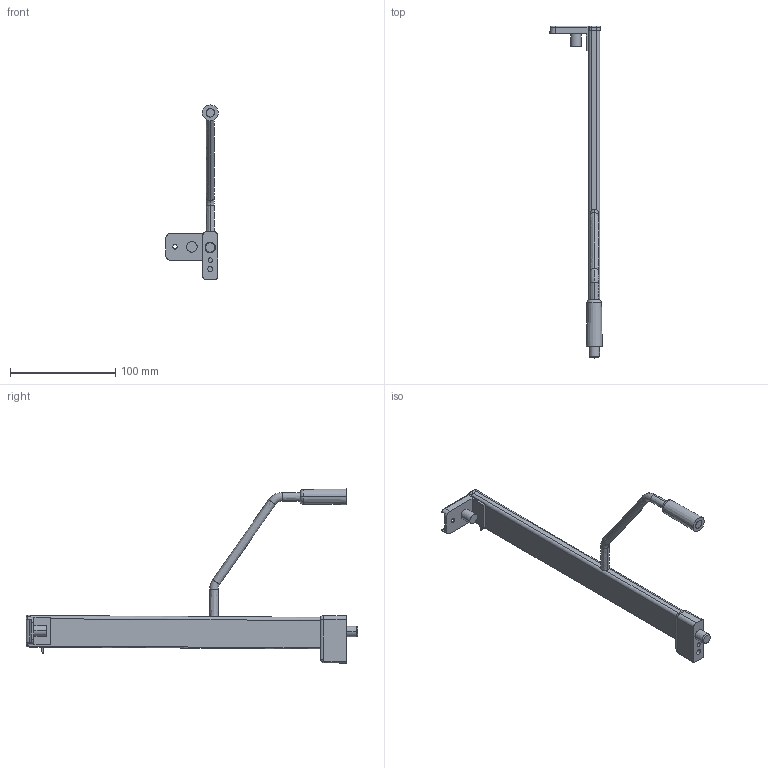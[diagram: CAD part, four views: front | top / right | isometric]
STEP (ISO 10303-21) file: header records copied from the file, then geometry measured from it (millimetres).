
FILE_DESCRIPTION (( 'STEP AP214' ), '1' );
FILE_NAME ('_2S_REL_7606_NL300_RE_Frontstütze.step', '2010-07-01T14:41:51', ( 'grass' ), ( '' ), 'SwSTEP 2.0', 'SolidWorks 2009', '' );
FILE_SCHEMA (( 'AUTOMOTIVE_DESIGN' ));
Length unit declared in the file: millimetre
Products named in the file (1): _2S_REL_7606_NL300_RE_Frontstütze
Bounding box: 49.75 x 315.5 x 165.5 mm (x, y, z)
Volume: 122302.5 mm3; surface area: 35885 mm2
Topology: 2 solids, 2 shells, 143 faces, 341 edges, 206 vertices
Faces by surface type: cylinder 61, plane 46, bspline 16, torus 12, cone 6, sphere 2
Entity records: 5411 total; most frequent: CARTESIAN_POINT 2206, ORIENTED_EDGE 678, DIRECTION 652, EDGE_CURVE 339, AXIS2_PLACEMENT_3D 249, VERTEX_POINT 206, LINE 154, VECTOR 154
